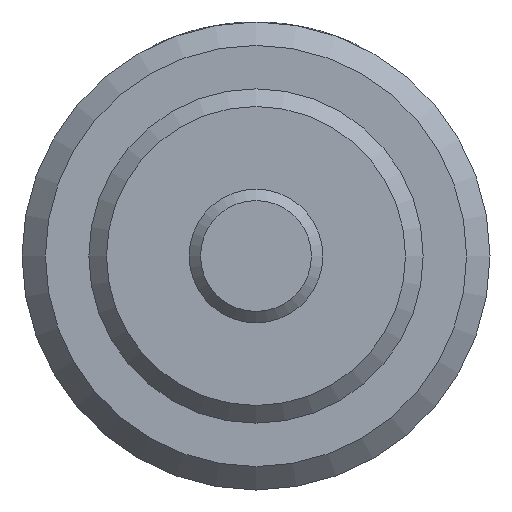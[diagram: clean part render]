
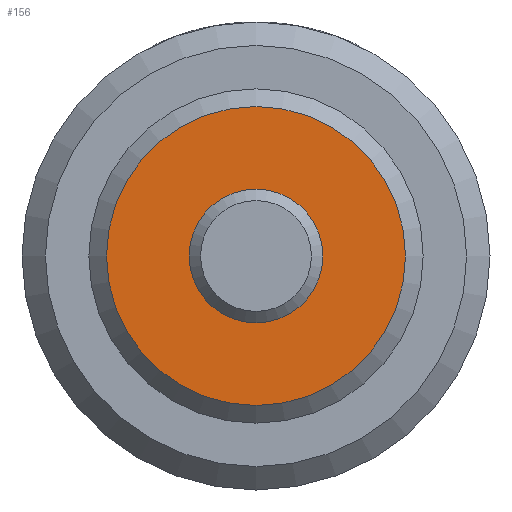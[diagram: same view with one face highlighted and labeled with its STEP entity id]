
A CAD part, left-side view. The second image highlights one B-rep face of the part: STEP entity #156.
In plain terms, the highlighted planar face has unit normal (-1, 0, 0).
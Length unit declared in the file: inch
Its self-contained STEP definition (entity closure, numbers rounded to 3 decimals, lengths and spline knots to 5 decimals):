
#156 = ADVANCED_FACE( '', ( #320, #321 ), #322, .F. );
#320 = FACE_OUTER_BOUND( '', #500, .T. );
#321 = FACE_BOUND( '', #501, .T. );
#322 = PLANE( '', #502 );
#500 = EDGE_LOOP( '', ( #741 ) );
#501 = EDGE_LOOP( '', ( #742 ) );
#502 = AXIS2_PLACEMENT_3D( '', #743, #744, #745 );
#741 = ORIENTED_EDGE( '', *, *, #894, .F. );
#742 = ORIENTED_EDGE( '', *, *, #953, .T. );
#743 = CARTESIAN_POINT( '', ( 0., 0., 0. ) );
#744 = DIRECTION( '', ( 1., 0., 0. ) );
#745 = DIRECTION( '', ( 0., 0., -1. ) );
#894 = EDGE_CURVE( '', #1009, #1009, #1010, .T. );
#953 = EDGE_CURVE( '', #1101, #1101, #1102, .T. );
#1009 = VERTEX_POINT( '', #1175 );
#1010 = CIRCLE( '', #1176, 0.27945 );
#1101 = VERTEX_POINT( '', #1419 );
#1102 = CIRCLE( '', #1420, 0.125 );
#1175 = CARTESIAN_POINT( '', ( 0., 0., -0.27945 ) );
#1176 = AXIS2_PLACEMENT_3D( '', #1481, #1482, #1483 );
#1419 = CARTESIAN_POINT( '', ( 0., 0., -0.125 ) );
#1420 = AXIS2_PLACEMENT_3D( '', #1571, #1572, #1573 );
#1481 = CARTESIAN_POINT( '', ( 0., 0., 0. ) );
#1482 = DIRECTION( '', ( 1., 0., 0. ) );
#1483 = DIRECTION( '', ( 0., 0., -1. ) );
#1571 = CARTESIAN_POINT( '', ( 0., 0., 0. ) );
#1572 = DIRECTION( '', ( 1., 0., 0. ) );
#1573 = DIRECTION( '', ( 0., 0., -1. ) );
